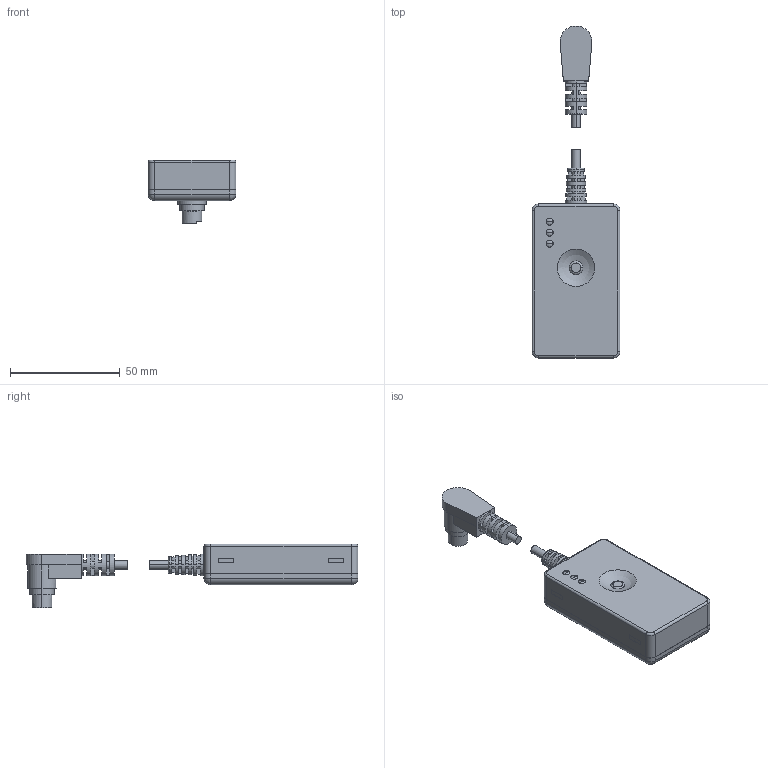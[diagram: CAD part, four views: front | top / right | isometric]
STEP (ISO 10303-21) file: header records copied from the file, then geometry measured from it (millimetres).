
FILE_DESCRIPTION (( 'STEP AP214' ), '1' );
FILE_NAME ('afp8670.stp', '2008-08-28T05:55:43', ( '' ), ( 'PanasonicElectricWorks' ), '', '', '' );
FILE_SCHEMA (( 'AUTOMOTIVE_DESIGN' ));
Length unit declared in the file: millimetre
Products named in the file (1): afp8670
Bounding box: 40 x 150.9 x 29.05 mm (x, y, z)
Volume: 56210.1 mm3; surface area: 18633.3 mm2
Topology: 2 solids, 2 shells, 315 faces, 804 edges, 524 vertices
Faces by surface type: plane 208, cylinder 83, sphere 11, torus 8, bspline 5
Entity records: 13026 total; most frequent: CARTESIAN_POINT 1714, DIRECTION 1645, ORIENTED_EDGE 1598, EDGE_CURVE 799, LINE 575, VECTOR 575, AXIS2_PLACEMENT_3D 535, VERTEX_POINT 524
